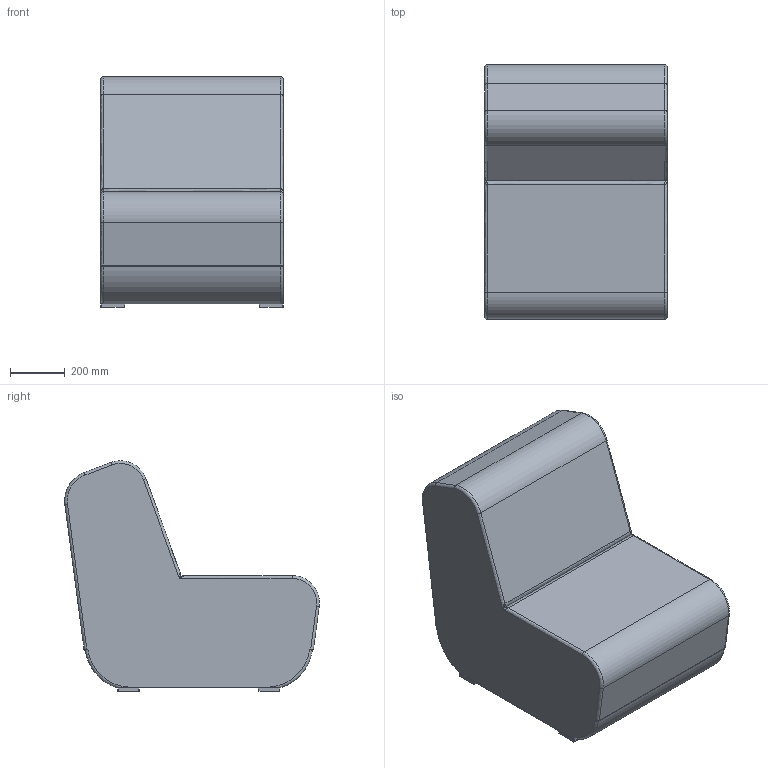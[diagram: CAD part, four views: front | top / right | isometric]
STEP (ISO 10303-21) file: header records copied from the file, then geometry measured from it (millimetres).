
FILE_DESCRIPTION(/* description */ (''),/* implementation_level */ '2;1');
FILE_NAME(/* name */ 'OPENPO~1',/* time_stamp */ '2015-09-28T16:48:06+02:00',/* author */ (''),/* organization */ (''),/* preprocessor_version */ 'ST-DEVELOPER v15',/* originating_system */ '',/* authorisation */ '');
FILE_SCHEMA (('AUTOMOTIVE_DESIGN'));
Length unit declared in the file: millimetre
Products named in the file (1): Document
Bounding box: 670 x 934.88 x 845.56 mm (x, y, z)
Volume: 337549.2 mm3; surface area: 3065151.2 mm2
Topology: 4 solids, 8 shells, 87 faces, 250 edges, 169 vertices
Faces by surface type: bspline 71, plane 16
Entity records: 3494 total; most frequent: CARTESIAN_POINT 2182, ORIENTED_EDGE 406, EDGE_CURVE 239, VERTEX_POINT 164, ADVANCED_FACE 87, FACE_OUTER_BOUND 87, EDGE_LOOP 87, B_SPLINE_CURVE_WITH_KNOTS 47
